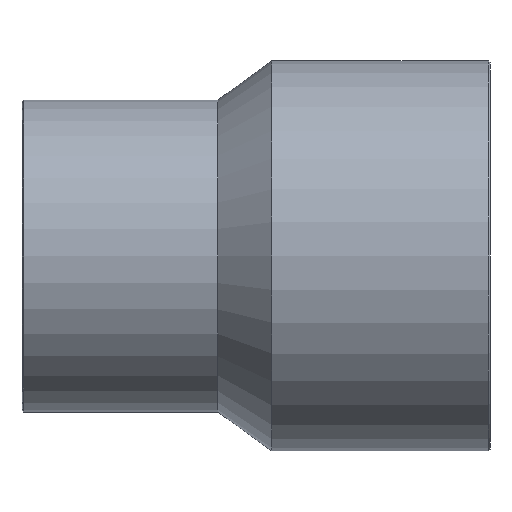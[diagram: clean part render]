
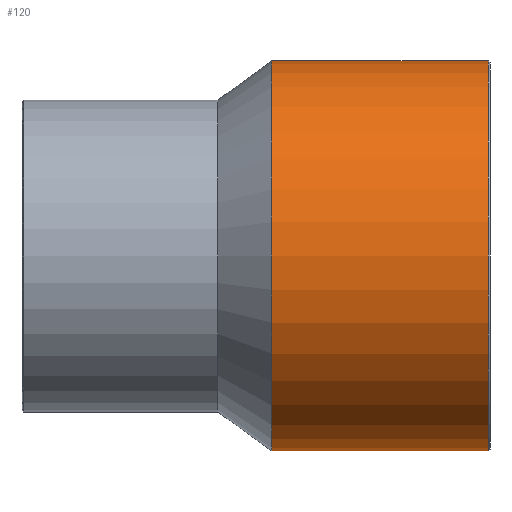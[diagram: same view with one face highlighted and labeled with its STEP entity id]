
A CAD part, front view. The second image highlights one B-rep face of the part: STEP entity #120.
In plain terms, the highlighted cylindrical face has radius 112.5 mm (diameter 225 mm), a full revolution.
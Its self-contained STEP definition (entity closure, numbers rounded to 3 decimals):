
#26=ORIENTED_EDGE('',*,*,#46,.T.);
#27=ORIENTED_EDGE('',*,*,#47,.F.);
#46=EDGE_CURVE('',#56,#56,#66,.T.);
#47=EDGE_CURVE('',#57,#57,#67,.T.);
#56=VERTEX_POINT('',#208);
#57=VERTEX_POINT('',#210);
#66=CIRCLE('',#144,112.5);
#67=CIRCLE('',#145,112.5);
#76=EDGE_LOOP('',(#26));
#77=EDGE_LOOP('',(#27));
#96=FACE_BOUND('',#76,.T.);
#97=FACE_BOUND('',#77,.T.);
#116=CYLINDRICAL_SURFACE('',#143,112.5);
#120=ADVANCED_FACE('',(#96,#97),#116,.T.);
#143=AXIS2_PLACEMENT_3D('',#206,#165,#166);
#144=AXIS2_PLACEMENT_3D('',#207,#167,#168);
#145=AXIS2_PLACEMENT_3D('',#209,#169,#170);
#165=DIRECTION('',(-1.,0.,0.));
#166=DIRECTION('',(0.,0.,1.));
#167=DIRECTION('',(-1.,0.,0.));
#168=DIRECTION('',(0.,0.,1.));
#169=DIRECTION('',(-1.,0.,0.));
#170=DIRECTION('',(0.,0.,1.));
#206=CARTESIAN_POINT('',(-60.,0.,0.));
#207=CARTESIAN_POINT('',(140.5,0.,0.));
#208=CARTESIAN_POINT('',(140.5,0.,112.5));
#209=CARTESIAN_POINT('',(15.5,0.,0.));
#210=CARTESIAN_POINT('',(15.5,0.,112.5));
